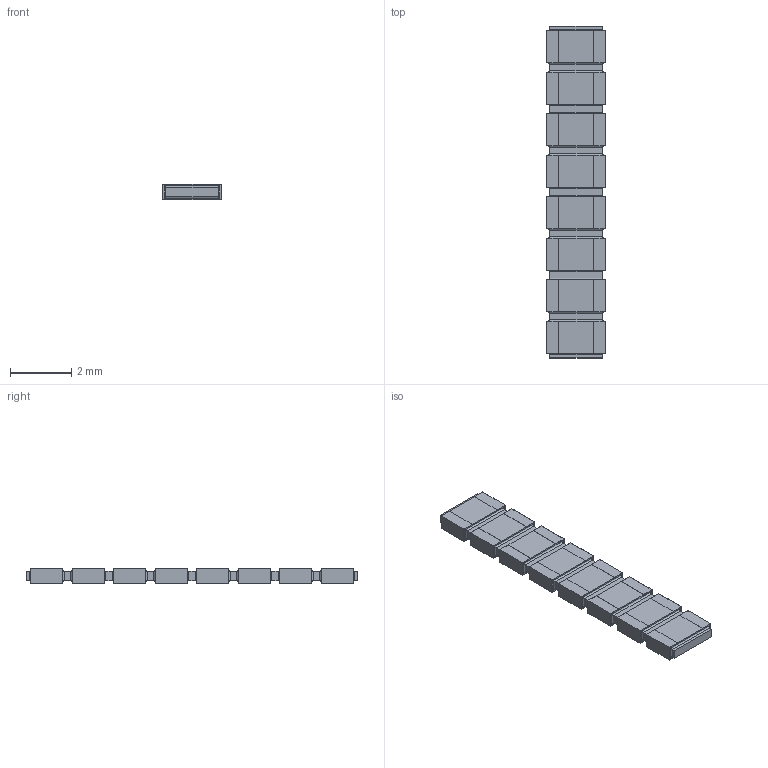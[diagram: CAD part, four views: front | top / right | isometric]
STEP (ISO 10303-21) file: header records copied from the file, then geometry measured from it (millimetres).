
FILE_DESCRIPTION(/* description */ (''),/* implementation_level */ '2;1');
FILE_NAME(/* name */ 'S:\DOCUMENT\AUTOCAD\3D_Modèles\10_3D-pour-VISHAY-COM\PRA\PRA135\PRA135-I2_à_I8\10_IGES\PRA135I8_B-or-N-or-G.stp',/* time_stamp */ '2017-12-18T12:08:13+01:00',/* author */ ('dparmentier'),/* organization */ ('unknown'),/* preprocessor_version */ 'ST-DEVELOPER v17',/* originating_system */ 'Autodesk Inventor 2018',/* authorisation */ '');
FILE_SCHEMA (('AUTOMOTIVE_DESIGN { 1 0 10303 214 3 1 1 }'));
Length unit declared in the file: millimetre
Products named in the file (1): PRA135I8_B-or-N-or-G
Bounding box: 1.91 x 10.8 x 0.5 mm (x, y, z)
Volume: 9.2 mm3; surface area: 98.5 mm2
Topology: 17 solids, 17 shells, 310 faces, 716 edges, 456 vertices
Faces by surface type: plane 246, cylinder 64
Entity records: 8609 total; most frequent: CARTESIAN_POINT 1483, ORIENTED_EDGE 1432, DIRECTION 1402, EDGE_CURVE 716, LINE 652, VECTOR 652, VERTEX_POINT 456, AXIS2_PLACEMENT_3D 375
